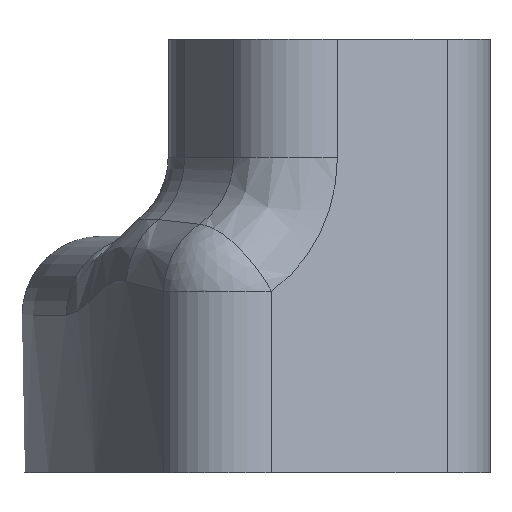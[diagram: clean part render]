
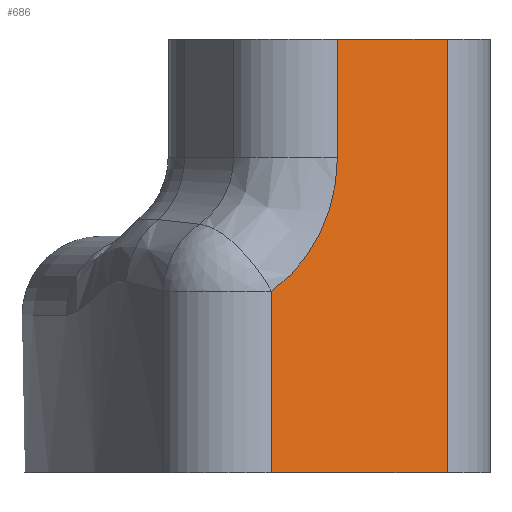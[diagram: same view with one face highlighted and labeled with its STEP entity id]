
A CAD part, front view. The second image highlights one B-rep face of the part: STEP entity #686.
In plain terms, the highlighted planar face has unit normal (0.455, -0.89, 0).
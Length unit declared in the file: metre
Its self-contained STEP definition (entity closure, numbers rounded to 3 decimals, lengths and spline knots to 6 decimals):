
#22=ELLIPSE('',#775,0.004008,0.004);
#33=PLANE('',#774);
#48=LINE('',#1131,#82);
#52=LINE('',#1161,#86);
#55=LINE('',#1178,#89);
#56=LINE('',#1180,#90);
#57=LINE('',#1181,#91);
#82=VECTOR('',#871,1.);
#86=VECTOR('',#907,1.);
#89=VECTOR('',#924,1.);
#90=VECTOR('',#925,1.);
#91=VECTOR('',#926,1.);
#179=ORIENTED_EDGE('',*,*,#374,.F.);
#180=ORIENTED_EDGE('',*,*,#350,.F.);
#181=ORIENTED_EDGE('',*,*,#375,.F.);
#182=ORIENTED_EDGE('',*,*,#366,.T.);
#183=ORIENTED_EDGE('',*,*,#376,.F.);
#184=ORIENTED_EDGE('',*,*,#377,.F.);
#350=EDGE_CURVE('',#451,#452,#48,.T.);
#366=EDGE_CURVE('',#462,#463,#52,.T.);
#374=EDGE_CURVE('',#452,#469,#55,.T.);
#375=EDGE_CURVE('',#462,#451,#56,.T.);
#376=EDGE_CURVE('',#470,#463,#57,.T.);
#377=EDGE_CURVE('',#469,#470,#22,.F.);
#451=VERTEX_POINT('',#1130);
#452=VERTEX_POINT('',#1132);
#462=VERTEX_POINT('',#1162);
#463=VERTEX_POINT('',#1163);
#469=VERTEX_POINT('',#1179);
#470=VERTEX_POINT('',#1182);
#560=EDGE_LOOP('',(#179,#180,#181,#182,#183,#184));
#616=FACE_BOUND('',#560,.T.);
#686=ADVANCED_FACE('',(#616),#33,.T.);
#774=AXIS2_PLACEMENT_3D('',#1177,#922,#923);
#775=AXIS2_PLACEMENT_3D('',#1183,#927,#928);
#871=DIRECTION('',(-0.89,-0.455,0.));
#907=DIRECTION('',(-0.89,-0.455,0.));
#922=DIRECTION('',(0.455,-0.89,0.));
#923=DIRECTION('',(-0.89,-0.455,0.));
#924=DIRECTION('',(0.,0.,1.));
#925=DIRECTION('',(0.,0.,-1.));
#926=DIRECTION('',(0.,0.,1.));
#927=DIRECTION('',(-0.455,0.89,0.));
#928=DIRECTION('',(0.89,0.455,0.));
#1130=CARTESIAN_POINT('',(-0.24322,-0.010452,0.198));
#1131=CARTESIAN_POINT('',(-0.245498,-0.011617,0.198));
#1132=CARTESIAN_POINT('',(-0.247678,-0.012732,0.198));
#1161=CARTESIAN_POINT('',(-0.245498,-0.011617,0.209));
#1162=CARTESIAN_POINT('',(-0.24322,-0.010452,0.209));
#1163=CARTESIAN_POINT('',(-0.246004,-0.011876,0.209));
#1177=CARTESIAN_POINT('',(-0.245498,-0.011617,0.197998));
#1178=CARTESIAN_POINT('',(-0.247678,-0.012732,0.209));
#1179=CARTESIAN_POINT('',(-0.247678,-0.012732,0.20261));
#1180=CARTESIAN_POINT('',(-0.24322,-0.010452,0.197998));
#1181=CARTESIAN_POINT('',(-0.246004,-0.011876,0.209));
#1182=CARTESIAN_POINT('',(-0.246004,-0.011876,0.206));
#1183=CARTESIAN_POINT('',(-0.249573,-0.0137,0.206));
